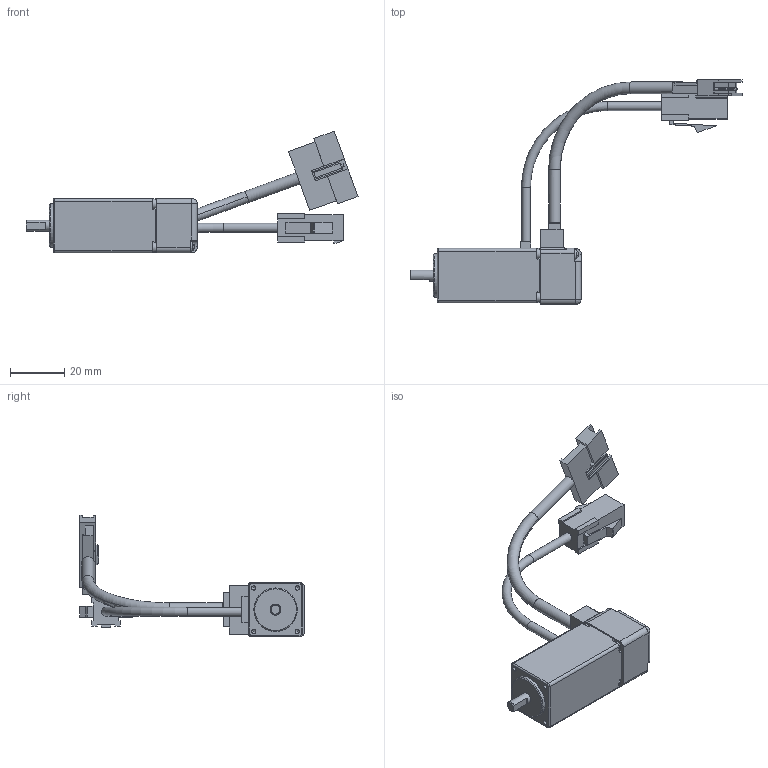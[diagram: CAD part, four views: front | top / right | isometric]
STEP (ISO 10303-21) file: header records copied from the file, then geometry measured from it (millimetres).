
FILE_DESCRIPTION(/* description */ (''),/* implementation_level */ '2;1');
FILE_NAME(/* name */ '\\EMN0D5F01\rp_inventor\RP Mechanical Design\Wiley\Updated Models\eCLM-P083F.stp',/* time_stamp */ '2016-10-27T14:35:51-07:00',/* author */ ('JDB'),/* organization */ ('Parker Hannifin Corp'),/* preprocessor_version */ 'ST-DEVELOPER v15.2',/* originating_system */ 'Autodesk Inventor 2014',/* authorisation */ '');
FILE_SCHEMA (('CONFIG_CONTROL_DESIGN'));
Length unit declared in the file: inch
Products named in the file (1): eCLM-P083F_sw
Bounding box: 122.19 x 82.7 x 44.79 mm (x, y, z)
Volume: 24142.1 mm3; surface area: 15391.9 mm2
Topology: 1 solids, 1 shells, 527 faces, 1441 edges, 932 vertices
Faces by surface type: plane 340, cylinder 127, cone 29, bspline 20, sphere 6, torus 5
Full cylindrical faces by diameter (mm): 1 x10, 1.5 x4, 1.6 x4, 1.778 x2, 2.3 x2, 3.3 x2, 4 x2, 4.3 x4, 4.5 x1, 5 x3, 16 x1
Entity records: 17019 total; most frequent: CARTESIAN_POINT 3861, DIRECTION 2710, ORIENTED_EDGE 2700, EDGE_CURVE 1350, AXIS2_PLACEMENT_3D 915, VERTEX_POINT 906, LINE 880, VECTOR 880
